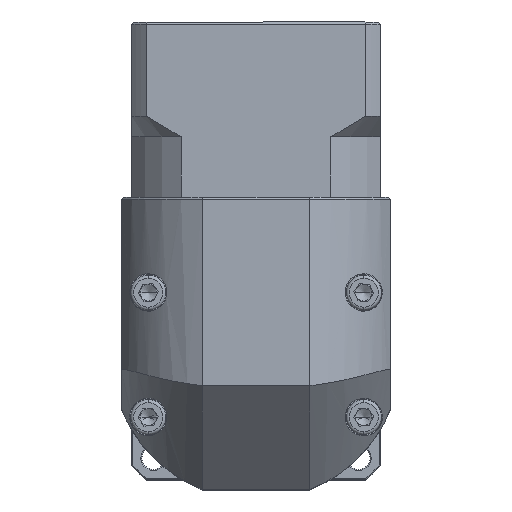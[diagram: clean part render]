
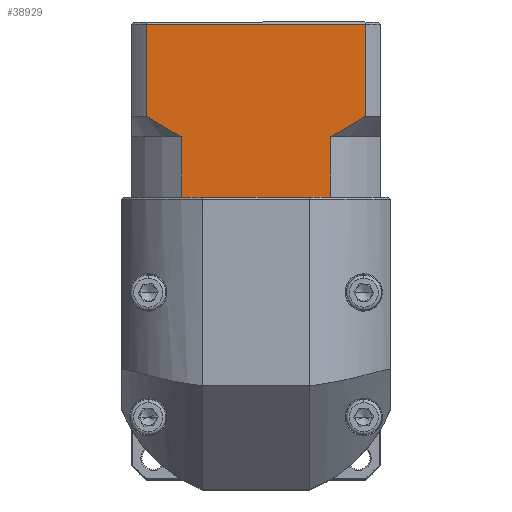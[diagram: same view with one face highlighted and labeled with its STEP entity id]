
A CAD part, top view. The second image highlights one B-rep face of the part: STEP entity #38929.
In plain terms, the highlighted planar face has unit normal (0, 0, 1).
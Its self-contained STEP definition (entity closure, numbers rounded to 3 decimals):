
#232 = DIRECTION ( 'NONE',  ( 0., 1., 0. ) ) ;
#1525 = VECTOR ( 'NONE', #64072, 1000. ) ;
#2974 = CARTESIAN_POINT ( 'NONE',  ( -20.495, 82.744, 46.008 ) ) ;
#3164 = ORIENTED_EDGE ( 'NONE', *, *, #44354, .F. ) ;
#6076 = DIRECTION ( 'NONE',  ( 0., 1., 0. ) ) ;
#7010 = AXIS2_PLACEMENT_3D ( 'NONE', #14125, #88995, #6076 ) ;
#7284 = EDGE_CURVE ( 'NONE', #35471, #73949, #61565, .T. ) ;
#8192 = CARTESIAN_POINT ( 'NONE',  ( -73.41, 55.544, 46.008 ) ) ;
#13049 = VECTOR ( 'NONE', #232, 1000. ) ;
#13302 = DIRECTION ( 'NONE',  ( 0., -1., 0. ) ) ;
#14125 = CARTESIAN_POINT ( 'NONE',  ( -76.952, 83.244, 46.008 ) ) ;
#14599 = VECTOR ( 'NONE', #55405, 1000. ) ;
#14905 = CARTESIAN_POINT ( 'NONE',  ( -27.468, 56.294, 46.008 ) ) ;
#15370 = DIRECTION ( 'NONE',  ( 1., 0., 0. ) ) ;
#16109 = DIRECTION ( 'NONE',  ( 0., -1., 0. ) ) ;
#16458 = VERTEX_POINT ( 'NONE', #89752 ) ;
#17246 = LINE ( 'NONE', #56864, #14599 ) ;
#17885 = LINE ( 'NONE', #94942, #85866 ) ;
#18158 = B_SPLINE_CURVE_WITH_KNOTS ( 'NONE', 3,
 ( #31749, #14905, #89803, #65222, #55880, #97798 ),
 .UNSPECIFIED., .F., .F.,
 ( 4, 2, 4 ),
 ( 0.1, 0.104, 0.109 ),
 .UNSPECIFIED. ) ;
#21203 = CARTESIAN_POINT ( 'NONE',  ( -64.98, 55.544, 46.008 ) ) ;
#21676 = EDGE_CURVE ( 'NONE', #16458, #55493, #54330, .T. ) ;
#22589 = DIRECTION ( 'NONE',  ( 0., 1., 0. ) ) ;
#24163 = CARTESIAN_POINT ( 'NONE',  ( -76.952, 41.044, 46.008 ) ) ;
#25640 = VECTOR ( 'NONE', #16109, 1000. ) ;
#25976 = CARTESIAN_POINT ( 'NONE',  ( -73.41, 82.744, 46.008 ) ) ;
#27015 = LINE ( 'NONE', #56578, #38725 ) ;
#28034 = LINE ( 'NONE', #88546, #29270 ) ;
#29270 = VECTOR ( 'NONE', #13302, 1000. ) ;
#29799 = FACE_OUTER_BOUND ( 'NONE', #72622, .T. ) ;
#31749 = CARTESIAN_POINT ( 'NONE',  ( -28.924, 55.544, 46.008 ) ) ;
#34186 = ORIENTED_EDGE ( 'NONE', *, *, #66583, .F. ) ;
#35340 = LINE ( 'NONE', #8192, #13049 ) ;
#35471 = VERTEX_POINT ( 'NONE', #44253 ) ;
#35838 = VERTEX_POINT ( 'NONE', #83581 ) ;
#37681 = CARTESIAN_POINT ( 'NONE',  ( -66.432, 56.292, 46.008 ) ) ;
#38012 = LINE ( 'NONE', #73534, #1525 ) ;
#38390 = CARTESIAN_POINT ( 'NONE',  ( -70.671, 58.771, 46.008 ) ) ;
#38725 = VECTOR ( 'NONE', #22589, 1000. ) ;
#38929 = ADVANCED_FACE ( 'NONE', ( #29799 ), #46645, .F. ) ;
#39127 = CARTESIAN_POINT ( 'NONE',  ( -67.863, 57.096, 46.008 ) ) ;
#39382 = VECTOR ( 'NONE', #15370, 1000. ) ;
#40775 = VERTEX_POINT ( 'NONE', #63220 ) ;
#40978 = VERTEX_POINT ( 'NONE', #83570 ) ;
#44207 = EDGE_CURVE ( 'NONE', #73949, #40978, #17885, .T. ) ;
#44253 = CARTESIAN_POINT ( 'NONE',  ( -63.989, 41.044, 46.008 ) ) ;
#44354 = EDGE_CURVE ( 'NONE', #61870, #55493, #27015, .T. ) ;
#46078 = CARTESIAN_POINT ( 'NONE',  ( -64.98, 55.544, 46.008 ) ) ;
#46645 = PLANE ( 'NONE',  #7010 ) ;
#49993 = ORIENTED_EDGE ( 'NONE', *, *, #56250, .T. ) ;
#50305 = ORIENTED_EDGE ( 'NONE', *, *, #67944, .T. ) ;
#52409 = VERTEX_POINT ( 'NONE', #2974 ) ;
#53680 = ORIENTED_EDGE ( 'NONE', *, *, #72345, .T. ) ;
#54137 = CARTESIAN_POINT ( 'NONE',  ( -73.41, 60.544, 46.008 ) ) ;
#54330 = B_SPLINE_CURVE_WITH_KNOTS ( 'NONE', 3,
 ( #54137, #62468, #38390, #39127, #37681, #46078 ),
 .UNSPECIFIED., .F., .F.,
 ( 4, 2, 4 ),
 ( 0.052, 0.057, 0.062 ),
 .UNSPECIFIED. ) ;
#55405 = DIRECTION ( 'NONE',  ( -1., 0., 0. ) ) ;
#55493 = VERTEX_POINT ( 'NONE', #21203 ) ;
#55880 = CARTESIAN_POINT ( 'NONE',  ( -21.857, 59.643, 46.008 ) ) ;
#56250 = EDGE_CURVE ( 'NONE', #61870, #35471, #38012, .T. ) ;
#56578 = CARTESIAN_POINT ( 'NONE',  ( -64.98, 55.544, 46.008 ) ) ;
#56864 = CARTESIAN_POINT ( 'NONE',  ( -76.952, 82.744, 46.008 ) ) ;
#58169 = CARTESIAN_POINT ( 'NONE',  ( -20.495, 55.544, 46.008 ) ) ;
#61565 = LINE ( 'NONE', #24163, #39382 ) ;
#61870 = VERTEX_POINT ( 'NONE', #68883 ) ;
#62468 = CARTESIAN_POINT ( 'NONE',  ( -72.05, 59.645, 46.008 ) ) ;
#63220 = CARTESIAN_POINT ( 'NONE',  ( -20.495, 60.544, 46.008 ) ) ;
#64072 = DIRECTION ( 'NONE',  ( 1., 0., 0. ) ) ;
#64682 = LINE ( 'NONE', #58169, #25640 ) ;
#65222 = CARTESIAN_POINT ( 'NONE',  ( -23.237, 58.769, 46.008 ) ) ;
#66583 = EDGE_CURVE ( 'NONE', #52409, #40775, #64682, .T. ) ;
#67944 = EDGE_CURVE ( 'NONE', #52409, #97257, #17246, .T. ) ;
#68244 = ORIENTED_EDGE ( 'NONE', *, *, #21676, .T. ) ;
#68840 = ORIENTED_EDGE ( 'NONE', *, *, #82457, .F. ) ;
#68875 = ORIENTED_EDGE ( 'NONE', *, *, #90560, .F. ) ;
#68883 = CARTESIAN_POINT ( 'NONE',  ( -64.98, 41.044, 46.008 ) ) ;
#72345 = EDGE_CURVE ( 'NONE', #35838, #40775, #18158, .T. ) ;
#72622 = EDGE_LOOP ( 'NONE', ( #34186, #50305, #68840, #68244, #3164, #49993, #87629, #72770, #68875, #53680 ) ) ;
#72770 = ORIENTED_EDGE ( 'NONE', *, *, #44207, .T. ) ;
#73534 = CARTESIAN_POINT ( 'NONE',  ( -76.952, 41.044, 46.008 ) ) ;
#73949 = VERTEX_POINT ( 'NONE', #86871 ) ;
#82457 = EDGE_CURVE ( 'NONE', #16458, #97257, #35340, .T. ) ;
#83570 = CARTESIAN_POINT ( 'NONE',  ( -28.924, 41.044, 46.008 ) ) ;
#83581 = CARTESIAN_POINT ( 'NONE',  ( -28.924, 55.544, 46.008 ) ) ;
#85866 = VECTOR ( 'NONE', #93893, 1000. ) ;
#86871 = CARTESIAN_POINT ( 'NONE',  ( -29.915, 41.044, 46.008 ) ) ;
#87629 = ORIENTED_EDGE ( 'NONE', *, *, #7284, .T. ) ;
#88546 = CARTESIAN_POINT ( 'NONE',  ( -28.924, 55.544, 46.008 ) ) ;
#88995 = DIRECTION ( 'NONE',  ( 0., 0., -1. ) ) ;
#89752 = CARTESIAN_POINT ( 'NONE',  ( -73.41, 60.544, 46.008 ) ) ;
#89803 = CARTESIAN_POINT ( 'NONE',  ( -26.043, 57.095, 46.008 ) ) ;
#90560 = EDGE_CURVE ( 'NONE', #35838, #40978, #28034, .T. ) ;
#93893 = DIRECTION ( 'NONE',  ( 1., 0., 0. ) ) ;
#94942 = CARTESIAN_POINT ( 'NONE',  ( -76.952, 41.044, 46.008 ) ) ;
#97257 = VERTEX_POINT ( 'NONE', #25976 ) ;
#97798 = CARTESIAN_POINT ( 'NONE',  ( -20.495, 60.544, 46.008 ) ) ;
